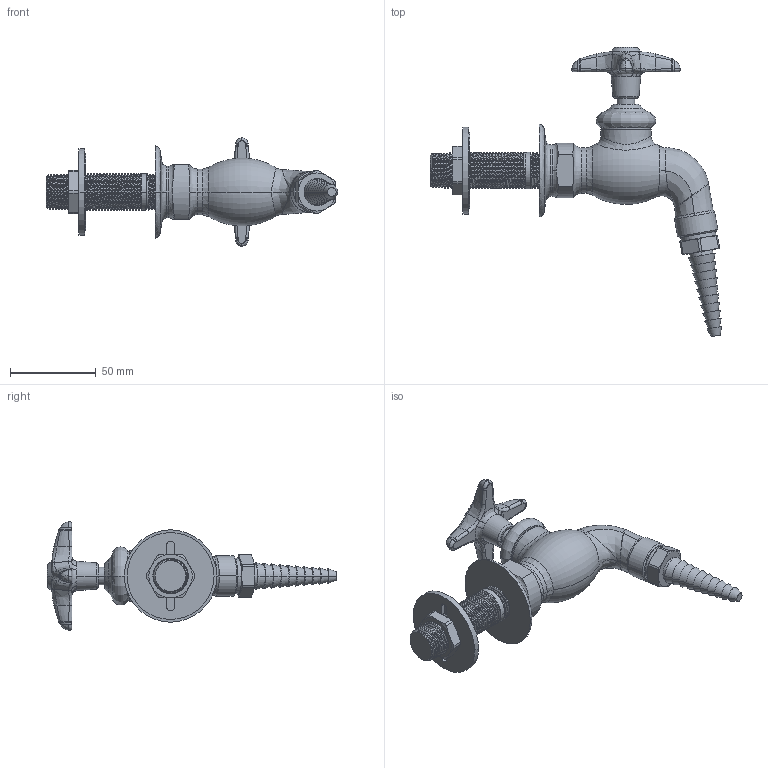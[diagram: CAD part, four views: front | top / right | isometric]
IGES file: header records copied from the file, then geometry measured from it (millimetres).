
Start section:  PTC IGES file: LWV4-B13.igs
Global section: file name: LWV4-B13.igs; native system: Creo Parametric by PTC Inc.; preprocessor: 2014500; author: usch_engrender; organization: Unknown; date: 20150915.131531; units: inch
Bounding box: 170.24 x 168.93 x 63.42 mm (x, y, z)
Volume: 157141.4 mm3; surface area: 36288.9 mm2
Topology: 1 solids, 3 shells, 440 faces, 1060 edges, 647 vertices
Faces by surface type: bspline 248, revolution 192
